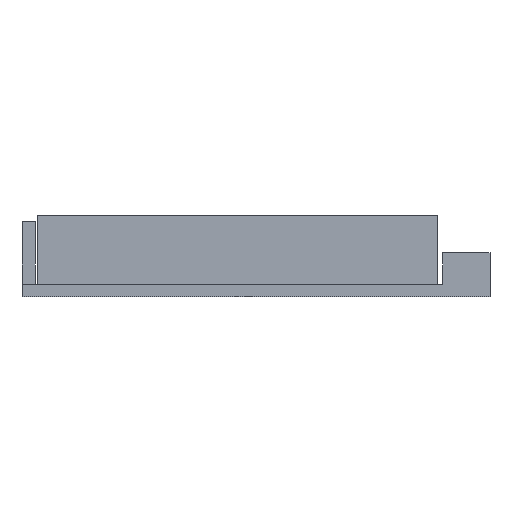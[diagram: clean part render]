
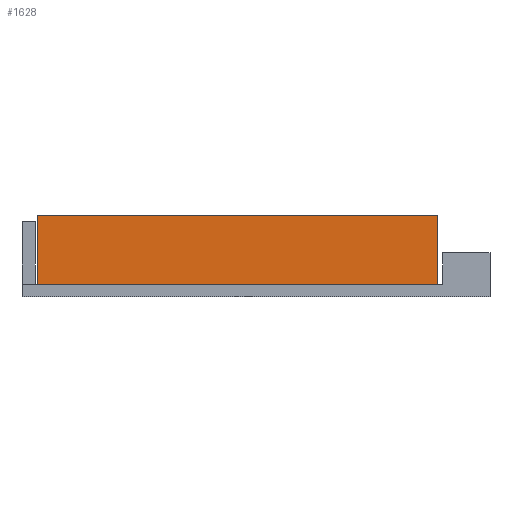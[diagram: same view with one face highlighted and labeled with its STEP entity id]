
A CAD part, left-side view. The second image highlights one B-rep face of the part: STEP entity #1628.
In plain terms, the highlighted planar face has unit normal (-1, 0, 0).
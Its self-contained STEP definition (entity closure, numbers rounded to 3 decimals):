
#128 = PLANE('',#129);
#129 = AXIS2_PLACEMENT_3D('',#130,#131,#132);
#130 = CARTESIAN_POINT('',(0.,0.,2.4));
#131 = DIRECTION('',(0.,0.,1.));
#132 = DIRECTION('',(1.,0.,-0.));
#768 = VERTEX_POINT('',#769);
#769 = CARTESIAN_POINT('',(5.5,10.,2.4));
#782 = PLANE('',#783);
#783 = AXIS2_PLACEMENT_3D('',#784,#785,#786);
#784 = CARTESIAN_POINT('',(5.5,10.,2.3));
#785 = DIRECTION('',(-0.,1.,0.));
#786 = DIRECTION('',(0.,0.,1.));
#794 = EDGE_CURVE('',#768,#795,#797,.T.);
#795 = VERTEX_POINT('',#796);
#796 = CARTESIAN_POINT('',(5.5,86.5,2.4));
#797 = SURFACE_CURVE('',#798,(#802,#808),.PCURVE_S1.);
#798 = LINE('',#799,#800);
#799 = CARTESIAN_POINT('',(5.5,5.,2.4));
#800 = VECTOR('',#801,1.);
#801 = DIRECTION('',(-0.,1.,0.));
#802 = PCURVE('',#128,#803);
#803 = DEFINITIONAL_REPRESENTATION('',(#804),#807);
#804 = B_SPLINE_CURVE_WITH_KNOTS('',1,(#805,#806),.UNSPECIFIED.,.F.,.F.,
  (2,2),(5.,81.5),.PIECEWISE_BEZIER_KNOTS.);
#805 = CARTESIAN_POINT('',(5.5,10.));
#806 = CARTESIAN_POINT('',(5.5,86.5));
#807 = ( GEOMETRIC_REPRESENTATION_CONTEXT(2) 
PARAMETRIC_REPRESENTATION_CONTEXT() REPRESENTATION_CONTEXT('2D SPACE',''
  ) );
#808 = PCURVE('',#809,#814);
#809 = PLANE('',#810);
#810 = AXIS2_PLACEMENT_3D('',#811,#812,#813);
#811 = CARTESIAN_POINT('',(5.5,10.,2.3));
#812 = DIRECTION('',(1.,0.,-0.));
#813 = DIRECTION('',(0.,0.,1.));
#814 = DEFINITIONAL_REPRESENTATION('',(#815),#819);
#815 = LINE('',#816,#817);
#816 = CARTESIAN_POINT('',(0.1,5.));
#817 = VECTOR('',#818,1.);
#818 = DIRECTION('',(0.,-1.));
#819 = ( GEOMETRIC_REPRESENTATION_CONTEXT(2) 
PARAMETRIC_REPRESENTATION_CONTEXT() REPRESENTATION_CONTEXT('2D SPACE',''
  ) );
#836 = PLANE('',#837);
#837 = AXIS2_PLACEMENT_3D('',#838,#839,#840);
#838 = CARTESIAN_POINT('',(5.5,86.5,2.3));
#839 = DIRECTION('',(-0.,1.,0.));
#840 = DIRECTION('',(0.,0.,1.));
#1419 = EDGE_CURVE('',#1420,#768,#1422,.T.);
#1420 = VERTEX_POINT('',#1421);
#1421 = CARTESIAN_POINT('',(5.5,10.,15.6));
#1422 = SURFACE_CURVE('',#1423,(#1427,#1434),.PCURVE_S1.);
#1423 = LINE('',#1424,#1425);
#1424 = CARTESIAN_POINT('',(5.5,10.,15.6));
#1425 = VECTOR('',#1426,1.);
#1426 = DIRECTION('',(0.,0.,-1.));
#1427 = PCURVE('',#782,#1428);
#1428 = DEFINITIONAL_REPRESENTATION('',(#1429),#1433);
#1429 = LINE('',#1430,#1431);
#1430 = CARTESIAN_POINT('',(13.3,0.));
#1431 = VECTOR('',#1432,1.);
#1432 = DIRECTION('',(-1.,0.));
#1433 = ( GEOMETRIC_REPRESENTATION_CONTEXT(2) 
PARAMETRIC_REPRESENTATION_CONTEXT() REPRESENTATION_CONTEXT('2D SPACE',''
  ) );
#1434 = PCURVE('',#809,#1435);
#1435 = DEFINITIONAL_REPRESENTATION('',(#1436),#1440);
#1436 = LINE('',#1437,#1438);
#1437 = CARTESIAN_POINT('',(13.3,0.));
#1438 = VECTOR('',#1439,1.);
#1439 = DIRECTION('',(-1.,0.));
#1440 = ( GEOMETRIC_REPRESENTATION_CONTEXT(2) 
PARAMETRIC_REPRESENTATION_CONTEXT() REPRESENTATION_CONTEXT('2D SPACE',''
  ) );
#1458 = PLANE('',#1459);
#1459 = AXIS2_PLACEMENT_3D('',#1460,#1461,#1462);
#1460 = CARTESIAN_POINT('',(5.5,10.,15.6));
#1461 = DIRECTION('',(0.,0.,1.));
#1462 = DIRECTION('',(1.,0.,-0.));
#1628 = ADVANCED_FACE('',(#1629),#809,.F.);
#1629 = FACE_BOUND('',#1630,.F.);
#1630 = EDGE_LOOP('',(#1631,#1632,#1655,#1676));
#1631 = ORIENTED_EDGE('',*,*,#794,.T.);
#1632 = ORIENTED_EDGE('',*,*,#1633,.T.);
#1633 = EDGE_CURVE('',#795,#1634,#1636,.T.);
#1634 = VERTEX_POINT('',#1635);
#1635 = CARTESIAN_POINT('',(5.5,86.5,15.6));
#1636 = SURFACE_CURVE('',#1637,(#1641,#1648),.PCURVE_S1.);
#1637 = LINE('',#1638,#1639);
#1638 = CARTESIAN_POINT('',(5.5,86.5,2.4));
#1639 = VECTOR('',#1640,1.);
#1640 = DIRECTION('',(0.,0.,1.));
#1641 = PCURVE('',#809,#1642);
#1642 = DEFINITIONAL_REPRESENTATION('',(#1643),#1647);
#1643 = LINE('',#1644,#1645);
#1644 = CARTESIAN_POINT('',(0.1,-76.5));
#1645 = VECTOR('',#1646,1.);
#1646 = DIRECTION('',(1.,0.));
#1647 = ( GEOMETRIC_REPRESENTATION_CONTEXT(2) 
PARAMETRIC_REPRESENTATION_CONTEXT() REPRESENTATION_CONTEXT('2D SPACE',''
  ) );
#1648 = PCURVE('',#836,#1649);
#1649 = DEFINITIONAL_REPRESENTATION('',(#1650),#1654);
#1650 = LINE('',#1651,#1652);
#1651 = CARTESIAN_POINT('',(0.1,0.));
#1652 = VECTOR('',#1653,1.);
#1653 = DIRECTION('',(1.,0.));
#1654 = ( GEOMETRIC_REPRESENTATION_CONTEXT(2) 
PARAMETRIC_REPRESENTATION_CONTEXT() REPRESENTATION_CONTEXT('2D SPACE',''
  ) );
#1655 = ORIENTED_EDGE('',*,*,#1656,.F.);
#1656 = EDGE_CURVE('',#1420,#1634,#1657,.T.);
#1657 = SURFACE_CURVE('',#1658,(#1662,#1669),.PCURVE_S1.);
#1658 = LINE('',#1659,#1660);
#1659 = CARTESIAN_POINT('',(5.5,10.,15.6));
#1660 = VECTOR('',#1661,1.);
#1661 = DIRECTION('',(-0.,1.,0.));
#1662 = PCURVE('',#809,#1663);
#1663 = DEFINITIONAL_REPRESENTATION('',(#1664),#1668);
#1664 = LINE('',#1665,#1666);
#1665 = CARTESIAN_POINT('',(13.3,0.));
#1666 = VECTOR('',#1667,1.);
#1667 = DIRECTION('',(0.,-1.));
#1668 = ( GEOMETRIC_REPRESENTATION_CONTEXT(2) 
PARAMETRIC_REPRESENTATION_CONTEXT() REPRESENTATION_CONTEXT('2D SPACE',''
  ) );
#1669 = PCURVE('',#1458,#1670);
#1670 = DEFINITIONAL_REPRESENTATION('',(#1671),#1675);
#1671 = LINE('',#1672,#1673);
#1672 = CARTESIAN_POINT('',(0.,0.));
#1673 = VECTOR('',#1674,1.);
#1674 = DIRECTION('',(0.,1.));
#1675 = ( GEOMETRIC_REPRESENTATION_CONTEXT(2) 
PARAMETRIC_REPRESENTATION_CONTEXT() REPRESENTATION_CONTEXT('2D SPACE',''
  ) );
#1676 = ORIENTED_EDGE('',*,*,#1419,.T.);
